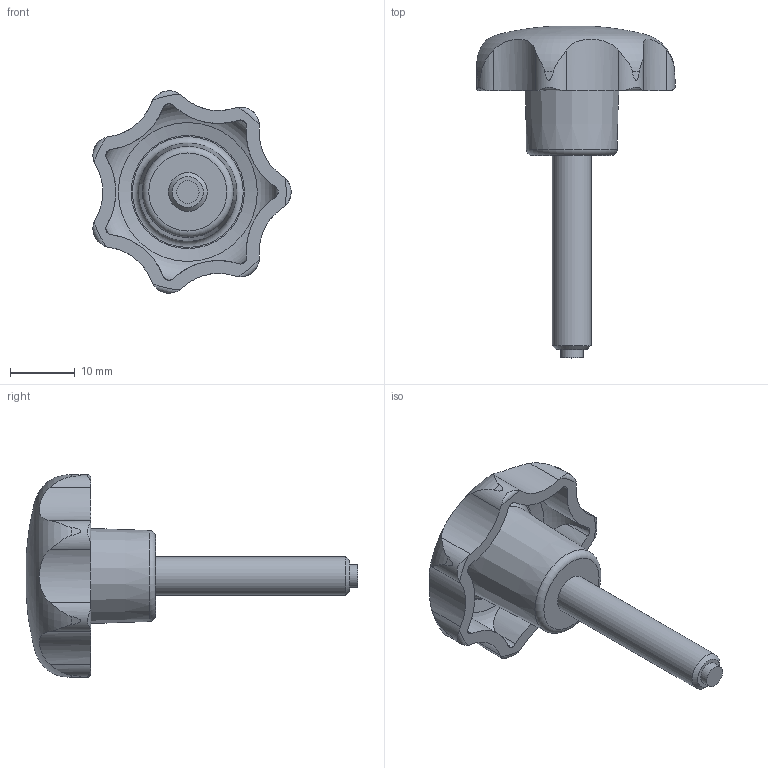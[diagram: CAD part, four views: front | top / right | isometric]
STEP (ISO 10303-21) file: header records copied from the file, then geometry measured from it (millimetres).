
FILE_DESCRIPTION( ( 'STEP AP203' ), '1' );
FILE_NAME( 'C:/Temp/Ganter_Step_05_03_2020/data/2_2/gn6336_10/Star knob GN 6336.10-32-M6-30-KU.stp', '2020-03-05T12:04:23', ( 'License CC BY-ND 4.0' ), ( 'CADENAS' ), ' ', 'PARTsolutions', ' ' );
FILE_SCHEMA( ( 'CONFIG_CONTROL_DESIGN' ) );
Length unit declared in the file: millimetre
Products named in the file (1): _Star knob GN 6336.10-32-M6-30-KU
Bounding box: 30.63 x 51.32 x 31.27 mm (x, y, z)
Volume: 6247 mm3; surface area: 3872 mm2
Topology: 1 solids, 1 shells, 65 faces, 189 edges, 128 vertices
Faces by surface type: cylinder 30, cone 17, torus 13, plane 4, bspline 1
Full cylindrical faces by diameter (mm): 3.5 x1, 6 x1
Entity records: 3035 total; most frequent: CARTESIAN_POINT 1421, ORIENTED_EDGE 348, DIRECTION 296, EDGE_CURVE 174, AXIS2_PLACEMENT_3D 134, VERTEX_POINT 125, EDGE_LOOP 78, B_SPLINE_CURVE_WITH_KNOTS 77
